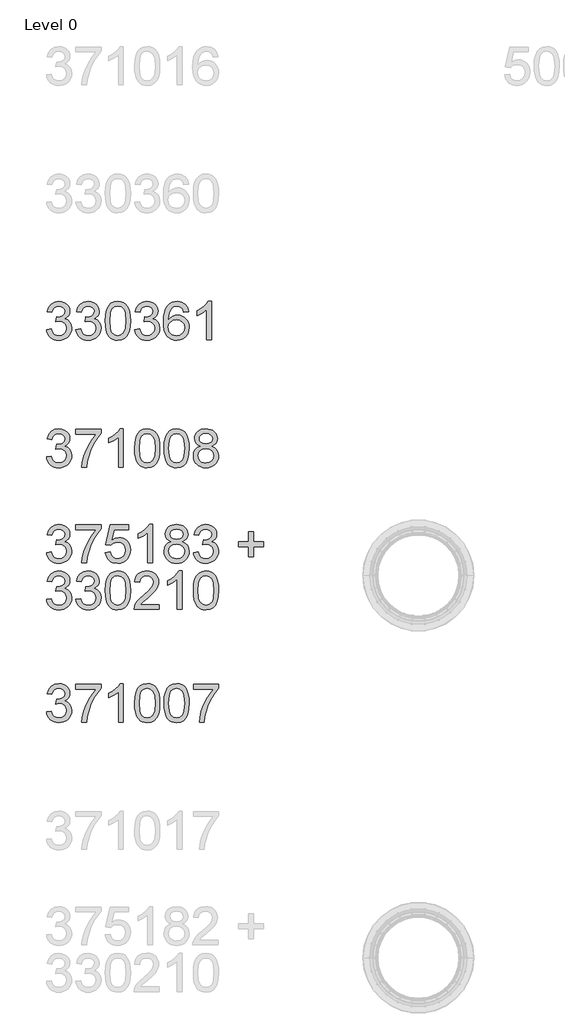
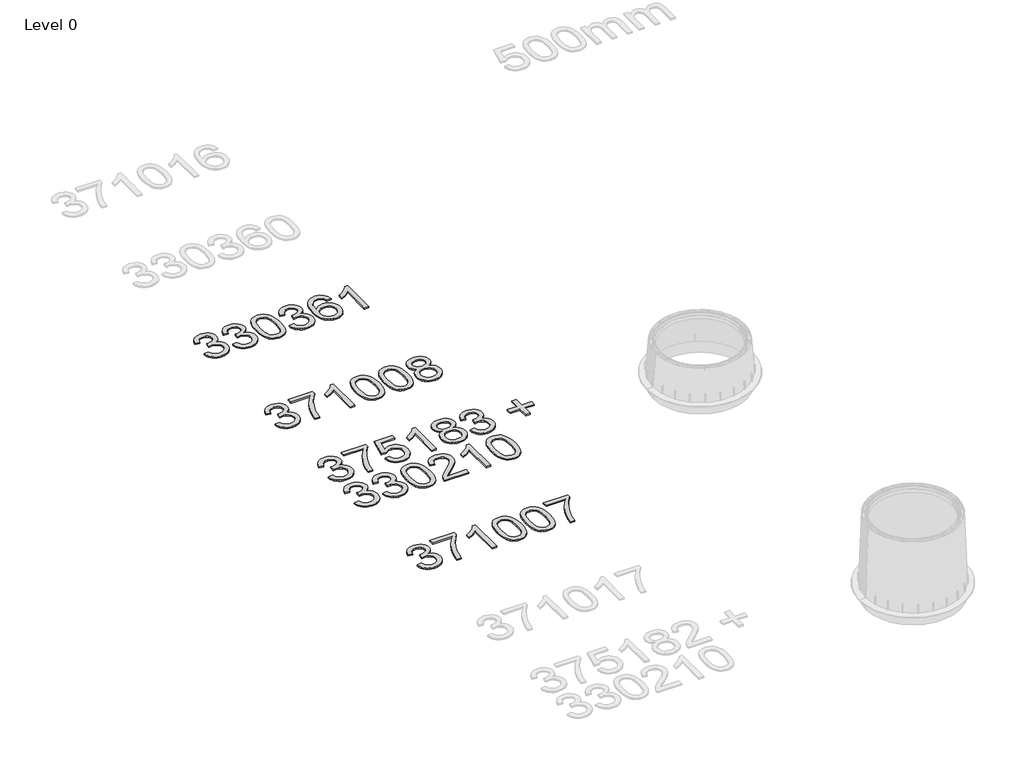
# One storey, part 13 of 25: 4 proxies.
"""IFC4 building model written with IfcOpenShell, lengths in millimetres."""

from ifc_helpers import new_model, si_unit, origin, origin_with_axes, place, context, project, spatial, polyline, outline, extrude, element, save

model = new_model("IFC4")

# Units and contexts
model_context = context("Model", 3, world=origin())
ifc_project = project(units=[si_unit("LENGTHUNIT", "METRE", prefix="MILLI")], contexts=[model_context])

# Site, building, storey
site = spatial("IfcSite", under=ifc_project)
building = spatial("IfcBuilding", under=site)
storey = spatial("IfcBuildingStorey", under=building, Name="Level 0", Elevation=0.0)

# Proxies
placement = place(None, origin())
element("IfcBuildingElementProxy", 1, Name="300mm Arial", ObjectType="300mm Arial", at=placement, inside=storey, context=model_context, shape_type="SweptSolid", body=[
    extrude(outline(polyline([(-3192.0538732, -120.925676), (-3154.3827568, -116.2167865), (-3145.9490621, -139.8899929), (-3133.5974241, -155.8744656), (-3116.7208376, -164.979545), (-3094.7122972, -168.0145714), (-3068.8869812, -163.8391108), (-3048.947777, -151.3127288), (-3036.2006659, -132.6243235), (-3031.9516289, -109.9627926), (-3036.1638777, -88.4508929), (-3048.8006242, -71.0040893), (-3067.930488, -59.4433976), (-3091.6220885, -55.5898337), (-3118.0360157, -59.710112), (-3113.842161, -22.0389957), (-3107.8088963, -22.4804541), (-3085.2393359, -19.7765215), (-3065.0610084, -11.6647235), (-3050.8239752, 2.057275), (-3046.0782975, 21.5918089), (-3049.5179941, 37.8613901), (-3059.8370841, 51.0591567), (-3075.5824335, 59.8055512), (-3095.3009084, 62.721016), (-3115.0561716, 59.77796), (-3131.2061912, 50.9487921), (-3142.9968091, 36.2335123), (-3149.6738673, 15.6321206), (-3187.3449836, 20.3410101), (-3176.2533415, 54.1677596), (-3156.5164724, 79.4228585), (-3129.513934, 95.1498138), (-3096.6252836, 100.3921323), (-3072.9428802, 97.8077613), (-3051.1918572, 90.0546482), (-3032.8529397, 77.8225719), (-3019.4068528, 61.801311), (-3011.1570991, 43.3428319), (-3008.4071812, 23.7991009), (-3011.0191433, 5.5889421), (-3018.8550298, -10.9289595), (-3031.8044761, -25.0004458), (-3049.7571174, -35.8713587), (-3026.1758815, -45.3995024), (-3008.7014868, -61.6230984), (-2997.8857561, -83.6592299), (-2994.2805125, -110.6249802), (-2996.0831343, -129.7364498), (-3001.4909997, -147.3396033), (-3010.5041085, -163.4344406), (-3023.122461, -178.0209617), (-3038.4953298, -190.1242793), (-3055.771988, -198.7695062), (-3074.9524356, -203.9566423), (-3096.0366724, -205.6856877), (-3115.0929598, -204.2095612), (-3132.4569899, -199.7811817), (-3148.1287629, -192.4005492), (-3162.1082787, -182.0676636), (-3173.8299188, -169.3895304), (-3182.7280646, -154.9731547), (-3188.802716, -138.8185366), (-3192.0538732, -120.925676)])), origin_with_axes(), (0.0, 0.0, 1.0), 10.0),
    extrude(outline(polyline([(-2961.3182858, -120.925676), (-2923.6471695, -116.2167865), (-2915.2134747, -139.8899929), (-2902.8618367, -155.8744656), (-2885.9852502, -164.979545), (-2863.9767099, -168.0145714), (-2838.1513938, -163.8391108), (-2818.2121897, -151.3127288), (-2805.4650785, -132.6243235), (-2801.2160415, -109.9627926), (-2805.4282903, -88.4508929), (-2818.0650369, -71.0040893), (-2837.1949006, -59.4433976), (-2860.8865011, -55.5898337), (-2887.3004284, -59.710112), (-2883.1065736, -22.0389957), (-2877.0733089, -22.4804541), (-2854.5037485, -19.7765215), (-2834.325421, -11.6647235), (-2820.0883878, 2.057275), (-2815.3427101, 21.5918089), (-2818.7824067, 37.8613901), (-2829.1014967, 51.0591567), (-2844.8468461, 59.8055512), (-2864.565321, 62.721016), (-2884.3205842, 59.77796), (-2900.4706038, 50.9487921), (-2912.2612217, 36.2335123), (-2918.9382799, 15.6321206), (-2956.6093962, 20.3410101), (-2945.5177541, 54.1677596), (-2925.780885, 79.4228585), (-2898.7783466, 95.1498138), (-2865.8896962, 100.3921323), (-2842.2072928, 97.8077613), (-2820.4562698, 90.0546482), (-2802.1173524, 77.8225719), (-2788.6712654, 61.801311), (-2780.4215117, 43.3428319), (-2777.6715938, 23.7991009), (-2780.283556, 5.5889421), (-2788.1194425, -10.9289595), (-2801.0688887, -25.0004458), (-2819.02153, -35.8713587), (-2795.4402942, -45.3995024), (-2777.9658994, -61.6230984), (-2767.1501687, -83.6592299), (-2763.5449252, -110.6249802), (-2765.3475469, -129.7364498), (-2770.7554123, -147.3396033), (-2779.7685212, -163.4344406), (-2792.3868736, -178.0209617), (-2807.7597425, -190.1242793), (-2825.0364007, -198.7695062), (-2844.2168482, -203.9566423), (-2865.301085, -205.6856877), (-2884.3573724, -204.2095612), (-2901.7214026, -199.7811817), (-2917.3931756, -192.4005492), (-2931.3726914, -182.0676636), (-2943.0943314, -169.3895304), (-2951.9924772, -154.9731547), (-2958.0671286, -138.8185366), (-2961.3182858, -120.925676)])), origin_with_axes(), (0.0, 0.0, 1.0), 10.0),
    extrude(outline(polyline([(-2730.5826984, -52.7203541), (-2727.8143864, -4.4818275), (-2719.5094504, 33.9894321), (-2705.7506637, 63.282036), (-2686.6208, 83.9845953), (-2661.9819034, 96.290248), (-2631.6960181, 100.3921323), (-2608.4826642, 97.9641111), (-2587.6973315, 90.6800476), (-2570.3149072, 78.8250503), (-2557.3102787, 62.6842278), (-2547.4878294, 42.3955357), (-2539.6519429, 18.0969299), (-2534.5199891, -12.7591724), (-2532.8093378, -52.7203541), (-2535.5500587, -100.6829692), (-2543.7722213, -139.0622584), (-2557.4482344, -168.3824534), (-2576.550507, -189.1677861), (-2601.244586, -201.5562123), (-2631.6960181, -205.6856877), (-2652.4445626, -203.892263), (-2670.8386624, -198.5119888), (-2686.8783174, -189.5448652), (-2700.5635276, -176.9908921), (-2713.6969148, -154.2971715), (-2723.0779057, -126.0208417), (-2728.7065002, -92.1619025), (-2730.5826984, -52.7203541)]), holes=[polyline([(-2692.9115821, -52.6467777), (-2688.4969982, -111.9033701), (-2682.9787682, -132.1713688), (-2675.2532463, -146.1991691), (-2655.5347714, -162.5607208), (-2631.6960181, -168.0145714), (-2607.8572648, -162.5423267), (-2588.1387899, -146.1255927), (-2580.413268, -132.0747997), (-2574.895038, -111.8113996), (-2570.4804541, -52.6467777), (-2574.7478852, 5.2762424), (-2580.0821742, 25.4775625), (-2587.5501787, 39.8387559), (-2607.2318654, 57.0004509), (-2632.1374765, 62.721016), (-2655.7187124, 57.6810326), (-2674.6646351, 42.5610826), (-2682.6476744, 26.9260978), (-2688.3498454, 5.8464595), (-2692.9115821, -52.6467777)])]), origin_with_axes(), (0.0, 0.0, 1.0), 10.0),
    extrude(outline(polyline([(-2499.847111, -120.925676), (-2462.1759947, -116.2167865), (-2453.7423, -139.8899929), (-2441.390662, -155.8744656), (-2424.5140755, -164.979545), (-2402.5055351, -168.0145714), (-2376.680219, -163.8391108), (-2356.7410149, -151.3127288), (-2343.9939038, -132.6243235), (-2339.7448667, -109.9627926), (-2343.9571156, -88.4508929), (-2356.5938621, -71.0040893), (-2375.7237259, -59.4433976), (-2399.4153263, -55.5898337), (-2425.8292536, -59.710112), (-2421.6353989, -22.0389957), (-2415.6021341, -22.4804541), (-2393.0325737, -19.7765215), (-2372.8542463, -11.6647235), (-2358.6172131, 2.057275), (-2353.8715353, 21.5918089), (-2357.311232, 37.8613901), (-2367.630322, 51.0591567), (-2383.3756714, 59.8055512), (-2403.0941463, 62.721016), (-2422.8494094, 59.77796), (-2438.999429, 50.9487921), (-2450.790047, 36.2335123), (-2457.4671052, 15.6321206), (-2495.1382215, 20.3410101), (-2484.0465793, 54.1677596), (-2464.3097103, 79.4228585), (-2437.3071719, 95.1498138), (-2404.4185215, 100.3921323), (-2380.736118, 97.8077613), (-2358.9850951, 90.0546482), (-2340.6461776, 77.8225719), (-2327.2000907, 61.801311), (-2318.950337, 43.3428319), (-2316.200419, 23.7991009), (-2318.8123812, 5.5889421), (-2326.6482677, -10.9289595), (-2339.5977139, -25.0004458), (-2357.5503553, -35.8713587), (-2333.9691194, -45.3995024), (-2316.4947246, -61.6230984), (-2305.678994, -83.6592299), (-2302.0737504, -110.6249802), (-2303.8763722, -129.7364498), (-2309.2842375, -147.3396033), (-2318.2973464, -163.4344406), (-2330.9156988, -178.0209617), (-2346.2885677, -190.1242793), (-2363.5652259, -198.7695062), (-2382.7456734, -203.9566423), (-2403.8299103, -205.6856877), (-2422.8861976, -204.2095612), (-2440.2502278, -199.7811817), (-2455.9220008, -192.4005492), (-2469.9015166, -182.0676636), (-2481.6231567, -169.3895304), (-2490.5213025, -154.9731547), (-2496.5959539, -138.8185366), (-2499.847111, -120.925676)])), origin_with_axes(), (0.0, 0.0, 1.0), 10.0),
    extrude(outline(polyline([(-2076.0470526, 20.3410101), (-2113.7181689, 15.6321206), (-2119.7882218, 34.3021318), (-2127.9919903, 47.049243), (-2145.080109, 58.8030727), (-2165.736683, 62.721016), (-2183.247866, 60.4401476), (-2199.7289794, 53.5975425), (-2213.8832391, 39.1857653), (-2225.4439308, 19.3477287), (-2233.2522262, -8.7124704), (-2236.1492969, -47.7907354), (-2221.0385439, -30.1599908), (-2202.9295527, -17.7347764), (-2182.8339987, -10.3679394), (-2161.7635575, -7.9123271), (-2143.6637633, -9.5907887), (-2126.9619207, -14.6261735), (-2111.6580297, -23.0184815), (-2097.7520903, -34.7677128), (-2086.1959971, -49.1748914), (-2077.9416449, -65.5410417), (-2072.9890335, -83.8661635), (-2071.338163, -104.150257), (-2074.4467659, -131.1252043), (-2083.7725745, -156.131983), (-2098.5430366, -177.34038), (-2117.9856, -192.9201825), (-2141.217348, -202.4943114), (-2167.3553638, -205.6856877), (-2189.8122603, -203.5703662), (-2210.0940546, -197.2244018), (-2228.2007465, -186.6477945), (-2244.1323362, -171.8405442), (-2257.1208699, -152.1772515), (-2266.3983939, -127.0325171), (-2271.9649084, -96.406341), (-2273.8204132, -60.2987232), (-2271.760274, -19.8179082), (-2265.5798565, 14.7308097), (-2255.2791606, 43.3474304), (-2240.8581864, 66.0319539), (-2225.2278002, 81.0645319), (-2207.1050134, 91.8020877), (-2186.4898261, 98.2446211), (-2163.3822382, 100.3921323), (-2130.328041, 95.0762374), (-2103.8589314, 79.1285529), (-2085.3176789, 53.7998776), (-2076.0470526, 20.3410101)]), holes=[polyline([(-2236.1492969, -103.5616459), (-2233.9695961, -120.2542914), (-2227.4304936, -136.1927788), (-2217.2769505, -149.8963831), (-2204.2539279, -159.8843793), (-2188.5361697, -165.9820234), (-2170.2984198, -168.0145714), (-2145.4387939, -163.8023226), (-2125.8950629, -151.165576), (-2113.2307252, -131.2999483), (-2109.0092794, -105.4010558), (-2113.175543, -80.54143), (-2125.6743337, -61.5863102), (-2145.5491585, -49.5841601), (-2171.8435241, -45.5834434), (-2196.6663618, -49.5841601), (-2217.4241033, -61.5863102), (-2231.4679985, -80.0815775), (-2236.1492969, -103.5616459)])]), origin_with_axes(), (0.0, 0.0, 1.0), 10.0),
    extrude(outline(polyline([(-1897.1092501, -200.9767982), (-1934.7803664, -200.9767982), (-1934.7803664, 33.8790675), (-1970.46492, 8.4584217), (-2010.1225991, -10.5610775), (-2010.1225991, 25.0498997), (-1980.5356896, 41.1447369), (-1954.9035116, 60.2929948), (-1934.697593, 80.6552632), (-1921.3894618, 100.3921323), (-1897.1092501, 100.3921323), (-1897.1092501, -200.9767982)])), origin_with_axes(), (0.0, 0.0, 1.0), 10.0),
])
element("IfcBuildingElementProxy", 2, Name="300mm Arial", ObjectType="300mm Arial", at=placement, inside=storey, context=model_context, shape_type="SweptSolid", body=[
    extrude(outline(polyline([(-3192.0538732, -1120.925676), (-3154.3827568, -1116.2167865), (-3145.9490621, -1139.8899929), (-3133.5974241, -1155.8744656), (-3116.7208376, -1164.979545), (-3094.7122972, -1168.0145714), (-3068.8869812, -1163.8391108), (-3048.947777, -1151.3127288), (-3036.2006659, -1132.6243235), (-3031.9516289, -1109.9627926), (-3036.1638777, -1088.4508929), (-3048.8006242, -1071.0040893), (-3067.930488, -1059.4433976), (-3091.6220885, -1055.5898337), (-3118.0360157, -1059.710112), (-3113.842161, -1022.0389957), (-3107.8088963, -1022.4804541), (-3085.2393359, -1019.7765215), (-3065.0610084, -1011.6647235), (-3050.8239752, -997.942725), (-3046.0782975, -978.4081911), (-3049.5179941, -962.1386099), (-3059.8370841, -948.9408433), (-3075.5824335, -940.1944488), (-3095.3009084, -937.278984), (-3115.0561716, -940.22204), (-3131.2061912, -949.0512079), (-3142.9968091, -963.7664877), (-3149.6738673, -984.3678794), (-3187.3449836, -979.6589899), (-3176.2533415, -945.8322404), (-3156.5164724, -920.5771415), (-3129.513934, -904.8501862), (-3096.6252836, -899.6078677), (-3072.9428802, -902.1922387), (-3051.1918572, -909.9453518), (-3032.8529397, -922.1774281), (-3019.4068528, -938.198689), (-3011.1570991, -956.6571681), (-3008.4071812, -976.2008991), (-3011.0191433, -994.4110579), (-3018.8550298, -1010.9289595), (-3031.8044761, -1025.0004458), (-3049.7571174, -1035.8713587), (-3026.1758815, -1045.3995024), (-3008.7014868, -1061.6230984), (-2997.8857561, -1083.6592299), (-2994.2805125, -1110.6249802), (-2996.0831343, -1129.7364498), (-3001.4909997, -1147.3396033), (-3010.5041085, -1163.4344406), (-3023.122461, -1178.0209617), (-3038.4953298, -1190.1242793), (-3055.771988, -1198.7695062), (-3074.9524356, -1203.9566423), (-3096.0366724, -1205.6856877), (-3115.0929598, -1204.2095612), (-3132.4569899, -1199.7811817), (-3148.1287629, -1192.4005492), (-3162.1082787, -1182.0676636), (-3173.8299188, -1169.3895304), (-3182.7280646, -1154.9731547), (-3188.802716, -1138.8185366), (-3192.0538732, -1120.925676)])), origin_with_axes(), (0.0, 0.0, 1.0), 10.0),
    extrude(outline(polyline([(-2961.3182858, -941.9878736), (-2961.3182858, -904.3167573), (-2763.5449252, -904.3167573), (-2763.5449252, -934.7773865), (-2791.7338831, -970.452743), (-2819.6469294, -1015.82179), (-2844.267432, -1066.7458552), (-2862.5787583, -1119.0862661), (-2871.555079, -1158.2473044), (-2876.5582741, -1200.9767982), (-2914.2293904, -1200.9767982), (-2910.1550973, -1162.1468536), (-2899.2565932, -1115.9960573), (-2881.8281837, -1067.076949), (-2858.1641743, -1019.9420684), (-2830.5362365, -977.3321363), (-2801.2160415, -941.9878736), (-2961.3182858, -941.9878736)])), origin_with_axes(), (0.0, 0.0, 1.0), 10.0),
    extrude(outline(polyline([(-2589.3160123, -1200.9767982), (-2626.9871286, -1200.9767982), (-2626.9871286, -966.1209325), (-2662.6716821, -991.5415783), (-2702.3293612, -1010.5610775), (-2702.3293612, -974.9501003), (-2672.7424517, -958.8552631), (-2647.1102737, -939.7070052), (-2626.9043551, -919.3447368), (-2613.5962239, -899.6078677), (-2589.3160123, -899.6078677), (-2589.3160123, -1200.9767982)])), origin_with_axes(), (0.0, 0.0, 1.0), 10.0),
    extrude(outline(polyline([(-2499.847111, -1052.7203541), (-2497.078799, -1004.4818275), (-2488.773863, -966.0105679), (-2475.0150764, -936.717964), (-2455.8852126, -916.0154047), (-2431.246316, -903.709752), (-2400.9604307, -899.6078677), (-2377.7470768, -902.0358889), (-2356.9617441, -909.3199524), (-2339.5793198, -921.1749497), (-2326.5746913, -937.3157722), (-2316.752242, -957.6044643), (-2308.9163555, -981.9030701), (-2303.7844017, -1012.7591724), (-2302.0737504, -1052.7203541), (-2304.8144713, -1100.6829692), (-2313.0366339, -1139.0622584), (-2326.7126471, -1168.3824534), (-2345.8149197, -1189.1677861), (-2370.5089986, -1201.5562123), (-2400.9604307, -1205.6856877), (-2421.7089753, -1203.892263), (-2440.103075, -1198.5119888), (-2456.14273, -1189.5448652), (-2469.8279402, -1176.9908921), (-2482.9613275, -1154.2971715), (-2492.3423183, -1126.0208417), (-2497.9709129, -1092.1619025), (-2499.847111, -1052.7203541)]), holes=[polyline([(-2462.1759947, -1052.6467777), (-2457.7614108, -1111.9033701), (-2452.2431809, -1132.1713688), (-2444.517659, -1146.1991691), (-2424.799184, -1162.5607208), (-2400.9604307, -1168.0145714), (-2377.1216774, -1162.5423267), (-2357.4032025, -1146.1255927), (-2349.6776806, -1132.0747997), (-2344.1594507, -1111.8113996), (-2339.7448667, -1052.6467777), (-2344.0122979, -994.7237576), (-2349.3465868, -974.5224375), (-2356.8145913, -960.1612441), (-2376.496278, -942.9995491), (-2401.4018891, -937.278984), (-2424.983125, -942.3189674), (-2443.9290478, -957.4389174), (-2451.9120871, -973.0739022), (-2457.614258, -994.1535405), (-2462.1759947, -1052.6467777)])]), origin_with_axes(), (0.0, 0.0, 1.0), 10.0),
    extrude(outline(polyline([(-2269.1115237, -1052.7203541), (-2266.3432116, -1004.4818275), (-2258.0382756, -966.0105679), (-2244.279489, -936.717964), (-2225.1496252, -916.0154047), (-2200.5107286, -903.709752), (-2170.2248434, -899.6078677), (-2147.0114895, -902.0358889), (-2126.2261567, -909.3199524), (-2108.8437325, -921.1749497), (-2095.8391039, -937.3157722), (-2086.0166547, -957.6044643), (-2078.1807682, -981.9030701), (-2073.0488143, -1012.7591724), (-2071.338163, -1052.7203541), (-2074.0788839, -1100.6829692), (-2082.3010465, -1139.0622584), (-2095.9770597, -1168.3824534), (-2115.0793323, -1189.1677861), (-2139.7734112, -1201.5562123), (-2170.2248434, -1205.6856877), (-2190.9733879, -1203.892263), (-2209.3674876, -1198.5119888), (-2225.4071426, -1189.5448652), (-2239.0923528, -1176.9908921), (-2252.2257401, -1154.2971715), (-2261.606731, -1126.0208417), (-2267.2353255, -1092.1619025), (-2269.1115237, -1052.7203541)]), holes=[polyline([(-2231.4404073, -1052.6467777), (-2227.0258234, -1111.9033701), (-2221.5075935, -1132.1713688), (-2213.7820716, -1146.1991691), (-2194.0635966, -1162.5607208), (-2170.2248434, -1168.0145714), (-2146.3860901, -1162.5423267), (-2126.6676151, -1146.1255927), (-2118.9420932, -1132.0747997), (-2113.4238633, -1111.8113996), (-2109.0092794, -1052.6467777), (-2113.2767105, -994.7237576), (-2118.6109994, -974.5224375), (-2126.0790039, -960.1612441), (-2145.7606907, -942.9995491), (-2170.6663017, -937.278984), (-2194.2475376, -942.3189674), (-2213.1934604, -957.4389174), (-2221.1764997, -973.0739022), (-2226.8786706, -994.1535405), (-2231.4404073, -1052.6467777)])]), origin_with_axes(), (0.0, 0.0, 1.0), 10.0),
    extrude(outline(polyline([(-1983.4879426, -1034.988442), (-2003.657073, -1025.0556281), (-2017.8113328, -1011.5911471), (-2026.1714511, -994.8709104), (-2028.9581572, -975.1708295), (-2027.440644, -959.8071577), (-2022.8881043, -945.7218758), (-2015.3005381, -932.9149839), (-2004.6779455, -921.3864818), (-1991.5307627, -911.8583382), (-1976.369426, -905.0525213), (-1940.0042908, -899.6078677), (-1903.4184264, -905.18128), (-1888.0915427, -912.1480452), (-1874.7420248, -921.9015166), (-1863.9262942, -933.6553464), (-1856.2007723, -946.6231867), (-1851.5654591, -960.8050376), (-1850.0203548, -976.2008991), (-1852.7702727, -995.2663835), (-1861.0200264, -1011.7015117), (-1874.8615865, -1025.0832192), (-1894.3869234, -1034.988442), (-1871.2011606, -1046.9354097), (-1854.3245741, -1064.5293662), (-1844.0330753, -1086.9241826), (-1840.6025757, -1113.2737305), (-1842.3040299, -1132.0633034), (-1847.4083926, -1149.2893779), (-1855.9156637, -1164.9519538), (-1867.8258433, -1179.0510313), (-1882.513532, -1190.7036935), (-1899.3533303, -1199.0270236), (-1918.3452383, -1204.0210217), (-1939.489256, -1205.6856877), (-1960.6332737, -1204.0141239), (-1979.6251817, -1198.9994325), (-1996.46498, -1190.6416134), (-2011.1526686, -1178.9406667), (-2023.0628482, -1164.7427209), (-2031.5701194, -1148.8939047), (-2036.6744821, -1131.3942181), (-2038.3759363, -1112.2436609), (-2034.8074809, -1084.8732405), (-2024.1021149, -1062.3588624), (-2006.8116611, -1045.4730788), (-1983.4879426, -1034.988442)]), holes=[polyline([(-1991.2870409, -976.2744755), (-1987.9485118, -992.7188007), (-1977.9329245, -1005.8521879), (-1961.5345845, -1014.4606266), (-1939.0477976, -1017.3301062), (-1917.0852425, -1014.4790207), (-1900.9352229, -1005.9257643), (-1891.002409, -993.2338355), (-1887.6914711, -977.9667327), (-1891.1127736, -962.1202158), (-1901.3766813, -949.0144197), (-1917.7474301, -940.2128429), (-1939.489256, -937.278984), (-1961.3690376, -940.1484636), (-1977.7121953, -948.7569023), (-1987.8933295, -961.3752547), (-1991.2870409, -976.2744755)]), polyline([(-2000.70482, -1110.9192858), (-1994.4140379, -1139.2829876), (-1985.7044316, -1151.4506846), (-1972.1571771, -1160.5097787), (-1955.9335812, -1166.1383732), (-1939.1949504, -1168.0145714), (-1913.5535753, -1164.069037), (-1894.313347, -1152.2324338), (-1882.2836057, -1134.3073836), (-1878.273692, -1112.0965081), (-1882.4123644, -1089.5085536), (-1894.8283818, -1071.1880303), (-1914.5100685, -1059.0479244), (-1940.4457492, -1055.0012225), (-1965.7284393, -1058.9927421), (-1984.7755296, -1070.9673011), (-1996.7224974, -1088.9383365), (-2000.70482, -1110.9192858)])]), origin_with_axes(), (0.0, 0.0, 1.0), 10.0),
])
element("IfcBuildingElementProxy", 3, Name="300mm Arial", ObjectType="300mm Arial", at=placement, inside=storey, context=model_context, shape_type="SweptSolid", body=[
    extrude(outline(polyline([(-3192.0538732, -1870.925676), (-3154.3827568, -1866.2167865), (-3145.9490621, -1889.8899929), (-3133.5974241, -1905.8744656), (-3116.7208376, -1914.979545), (-3094.7122972, -1918.0145714), (-3068.8869812, -1913.8391108), (-3048.947777, -1901.3127288), (-3036.2006659, -1882.6243235), (-3031.9516289, -1859.9627926), (-3036.1638777, -1838.4508929), (-3048.8006242, -1821.0040893), (-3067.930488, -1809.4433976), (-3091.6220885, -1805.5898337), (-3118.0360157, -1809.710112), (-3113.842161, -1772.0389957), (-3107.8088963, -1772.4804541), (-3085.2393359, -1769.7765215), (-3065.0610084, -1761.6647235), (-3050.8239752, -1747.942725), (-3046.0782975, -1728.4081911), (-3049.5179941, -1712.1386099), (-3059.8370841, -1698.9408433), (-3075.5824335, -1690.1944488), (-3095.3009084, -1687.278984), (-3115.0561716, -1690.22204), (-3131.2061912, -1699.0512079), (-3142.9968091, -1713.7664877), (-3149.6738673, -1734.3678794), (-3187.3449836, -1729.6589899), (-3176.2533415, -1695.8322404), (-3156.5164724, -1670.5771415), (-3129.513934, -1654.8501862), (-3096.6252836, -1649.6078677), (-3072.9428802, -1652.1922387), (-3051.1918572, -1659.9453518), (-3032.8529397, -1672.1774281), (-3019.4068528, -1688.198689), (-3011.1570991, -1706.6571681), (-3008.4071812, -1726.2008991), (-3011.0191433, -1744.4110579), (-3018.8550298, -1760.9289595), (-3031.8044761, -1775.0004458), (-3049.7571174, -1785.8713587), (-3026.1758815, -1795.3995024), (-3008.7014868, -1811.6230984), (-2997.8857561, -1833.6592299), (-2994.2805125, -1860.6249802), (-2996.0831343, -1879.7364498), (-3001.4909997, -1897.3396033), (-3010.5041085, -1913.4344406), (-3023.122461, -1928.0209617), (-3038.4953298, -1940.1242793), (-3055.771988, -1948.7695062), (-3074.9524356, -1953.9566423), (-3096.0366724, -1955.6856877), (-3115.0929598, -1954.2095612), (-3132.4569899, -1949.7811817), (-3148.1287629, -1942.4005492), (-3162.1082787, -1932.0676636), (-3173.8299188, -1919.3895304), (-3182.7280646, -1904.9731547), (-3188.802716, -1888.8185366), (-3192.0538732, -1870.925676)])), origin_with_axes(), (0.0, 0.0, 1.0), 10.0),
    extrude(outline(polyline([(-2961.3182858, -1691.9878736), (-2961.3182858, -1654.3167573), (-2763.5449252, -1654.3167573), (-2763.5449252, -1684.7773865), (-2791.7338831, -1720.452743), (-2819.6469294, -1765.82179), (-2844.267432, -1816.7458552), (-2862.5787583, -1869.0862661), (-2871.555079, -1908.2473044), (-2876.5582741, -1950.9767982), (-2914.2293904, -1950.9767982), (-2910.1550973, -1912.1468536), (-2899.2565932, -1865.9960573), (-2881.8281837, -1817.076949), (-2858.1641743, -1769.9420684), (-2830.5362365, -1727.3321363), (-2801.2160415, -1691.9878736), (-2961.3182858, -1691.9878736)])), origin_with_axes(), (0.0, 0.0, 1.0), 10.0),
    extrude(outline(polyline([(-2730.5826984, -1870.925676), (-2692.9115821, -1866.2167865), (-2685.9954006, -1888.8323321), (-2673.9288711, -1905.028337), (-2656.7671761, -1914.7680128), (-2634.5654977, -1918.0145714), (-2607.5629592, -1913.4988199), (-2587.3294495, -1899.9515654), (-2574.6927029, -1878.9363065), (-2570.4804541, -1852.0165415), (-2574.4259885, -1826.669472), (-2586.2625917, -1807.2820909), (-2606.0822342, -1794.9764381), (-2633.9768865, -1790.8745539), (-2652.2514246, -1792.5116288), (-2667.0494778, -1797.4228534), (-2688.2026926, -1814.4190016), (-2725.8738089, -1809.710112), (-2692.9115821, -1654.3167573), (-2546.9360064, -1654.3167573), (-2546.9360064, -1691.9878736), (-2662.4509529, -1691.9878736), (-2678.5641843, -1774.9820517), (-2651.6536163, -1758.6480911), (-2623.4554614, -1753.2034376), (-2605.1096462, -1754.8910962), (-2588.2583515, -1759.9540722), (-2572.9015775, -1768.3923654), (-2559.0393241, -1780.205976), (-2547.5637051, -1794.6729355), (-2539.3668344, -1811.0712754), (-2534.4487119, -1829.4009958), (-2532.8093378, -1849.6620967), (-2538.7138438, -1887.333213), (-2546.0944763, -1904.1270261), (-2556.4273619, -1919.5596758), (-2572.0807408, -1935.364806), (-2590.3460818, -1946.6541847), (-2611.2233851, -1953.427812), (-2634.7126505, -1955.6856877), (-2671.7123821, -1949.8823492), (-2687.3910529, -1942.6281762), (-2701.188927, -1932.4723338), (-2712.6691445, -1919.92066), (-2721.3948456, -1905.4789924), (-2730.5826984, -1870.925676)])), origin_with_axes(), (0.0, 0.0, 1.0), 10.0),
    extrude(outline(polyline([(-2358.5804249, -1950.9767982), (-2396.2515412, -1950.9767982), (-2396.2515412, -1716.1209325), (-2431.9360947, -1741.5415783), (-2471.5937738, -1760.5610775), (-2471.5937738, -1724.9501003), (-2442.0068643, -1708.8552631), (-2416.3746863, -1689.7070052), (-2396.1687677, -1669.3447368), (-2382.8606366, -1649.6078677), (-2358.5804249, -1649.6078677), (-2358.5804249, -1950.9767982)])), origin_with_axes(), (0.0, 0.0, 1.0), 10.0),
    extrude(outline(polyline([(-2214.22353, -1784.988442), (-2234.3926604, -1775.0556281), (-2248.5469201, -1761.5911471), (-2256.9070385, -1744.8709104), (-2259.6937446, -1725.1708295), (-2258.1762313, -1709.8071577), (-2253.6236917, -1695.7218758), (-2246.0361255, -1682.9149839), (-2235.4135329, -1671.3864818), (-2222.2663501, -1661.8583382), (-2207.1050134, -1655.0525213), (-2170.7398781, -1649.6078677), (-2134.1540137, -1655.18128), (-2118.8271301, -1662.1480452), (-2105.4776122, -1671.9015166), (-2094.6618815, -1683.6553464), (-2086.9363596, -1696.6231867), (-2082.3010465, -1710.8050376), (-2080.7559421, -1726.2008991), (-2083.50586, -1745.2663835), (-2091.7556138, -1761.7015117), (-2105.5971738, -1775.0832192), (-2125.1225107, -1784.988442), (-2101.936748, -1796.9354097), (-2085.0601615, -1814.5293662), (-2074.7686627, -1836.9241826), (-2071.338163, -1863.2737305), (-2073.0396173, -1882.0633034), (-2078.14398, -1899.2893779), (-2086.6512511, -1914.9519538), (-2098.5614307, -1929.0510313), (-2113.2491193, -1940.7036935), (-2130.0889177, -1949.0270236), (-2149.0808257, -1954.0210217), (-2170.2248434, -1955.6856877), (-2191.368861, -1954.0141239), (-2210.360769, -1948.9994325), (-2227.2005674, -1940.6416134), (-2241.888256, -1928.9406667), (-2253.7984356, -1914.7427209), (-2262.3057067, -1898.8939047), (-2267.4100694, -1881.3942181), (-2269.1115237, -1862.2436609), (-2265.5430683, -1834.8732405), (-2254.8377022, -1812.3588624), (-2237.5472485, -1795.4730788), (-2214.22353, -1784.988442)]), holes=[polyline([(-2222.0226283, -1726.2744755), (-2218.6840992, -1742.7188007), (-2208.6685118, -1755.8521879), (-2192.2701719, -1764.4606266), (-2169.783385, -1767.3301062), (-2147.8208298, -1764.4790207), (-2131.6708103, -1755.9257643), (-2121.7379964, -1743.2338355), (-2118.4270584, -1727.9667327), (-2121.848361, -1712.1202158), (-2132.1122687, -1699.0144197), (-2148.4830174, -1690.2128429), (-2170.2248434, -1687.278984), (-2192.104625, -1690.1484636), (-2208.4477827, -1698.7569023), (-2218.6289169, -1711.3752547), (-2222.0226283, -1726.2744755)]), polyline([(-2231.4404073, -1860.9192858), (-2225.1496252, -1889.2829876), (-2216.440019, -1901.4506846), (-2202.8927645, -1910.5097787), (-2186.6691685, -1916.1383732), (-2169.9305378, -1918.0145714), (-2144.2891627, -1914.069037), (-2125.0489343, -1902.2324338), (-2113.0191931, -1884.3073836), (-2109.0092794, -1862.0965081), (-2113.1479518, -1839.5085536), (-2125.5639691, -1821.1880303), (-2145.2456559, -1809.0479244), (-2171.1813365, -1805.0012225), (-2196.4640267, -1808.9927421), (-2215.511117, -1820.9673011), (-2227.4580848, -1838.9383365), (-2231.4404073, -1860.9192858)])]), origin_with_axes(), (0.0, 0.0, 1.0), 10.0),
    extrude(outline(polyline([(-2038.3759363, -1870.925676), (-2000.70482, -1866.2167865), (-1992.2711252, -1889.8899929), (-1979.9194872, -1905.8744656), (-1963.0429007, -1914.979545), (-1941.0343604, -1918.0145714), (-1915.2090443, -1913.8391108), (-1895.2698402, -1901.3127288), (-1882.522729, -1882.6243235), (-1878.273692, -1859.9627926), (-1882.4859408, -1838.4508929), (-1895.1226874, -1821.0040893), (-1914.2525511, -1809.4433976), (-1937.9441516, -1805.5898337), (-1964.3580789, -1809.710112), (-1960.1642241, -1772.0389957), (-1954.1309594, -1772.4804541), (-1931.561399, -1769.7765215), (-1911.3830715, -1761.6647235), (-1897.1460383, -1747.942725), (-1892.4003606, -1728.4081911), (-1895.8400572, -1712.1386099), (-1906.1591472, -1698.9408433), (-1921.9044966, -1690.1944488), (-1941.6229715, -1687.278984), (-1961.3782347, -1690.22204), (-1977.5282543, -1699.0512079), (-1989.3188722, -1713.7664877), (-1995.9959304, -1734.3678794), (-2033.6670467, -1729.6589899), (-2022.5754046, -1695.8322404), (-2002.8385355, -1670.5771415), (-1975.8359971, -1654.8501862), (-1942.9473467, -1649.6078677), (-1919.2649433, -1652.1922387), (-1897.5139203, -1659.9453518), (-1879.1750029, -1672.1774281), (-1865.7289159, -1688.198689), (-1857.4791622, -1706.6571681), (-1854.7292443, -1726.2008991), (-1857.3412065, -1744.4110579), (-1865.177093, -1760.9289595), (-1878.1265392, -1775.0004458), (-1896.0791805, -1785.8713587), (-1872.4979447, -1795.3995024), (-1855.0235499, -1811.6230984), (-1844.2078192, -1833.6592299), (-1840.6025757, -1860.6249802), (-1842.4051975, -1879.7364498), (-1847.8130628, -1897.3396033), (-1856.8261717, -1913.4344406), (-1869.4445241, -1928.0209617), (-1884.817393, -1940.1242793), (-1902.0940512, -1948.7695062), (-1921.2744987, -1953.9566423), (-1942.3587355, -1955.6856877), (-1961.4150229, -1954.2095612), (-1978.7790531, -1949.7811817), (-1994.4508261, -1942.4005492), (-2008.4303419, -1932.0676636), (-2020.1519819, -1919.3895304), (-2029.0501277, -1904.9731547), (-2035.1247791, -1888.8185366), (-2038.3759363, -1870.925676)])), origin_with_axes(), (0.0, 0.0, 1.0), 10.0),
    extrude(outline(polyline([(-1605.1580988, -1903.8879028), (-1605.1580988, -1823.8367806), (-1685.2092209, -1823.8367806), (-1685.2092209, -1786.1656643), (-1605.1580988, -1786.1656643), (-1605.1580988, -1706.1145422), (-1567.4869825, -1706.1145422), (-1567.4869825, -1786.1656643), (-1487.4358603, -1786.1656643), (-1487.4358603, -1823.8367806), (-1567.4869825, -1823.8367806), (-1567.4869825, -1903.8879028), (-1605.1580988, -1903.8879028)])), origin_with_axes(), (0.0, 0.0, 1.0), 10.0),
    extrude(outline(polyline([(-3192.0538732, -2236.8501296), (-3154.3827568, -2232.14124), (-3145.9490621, -2255.8144464), (-3133.5974241, -2271.7989191), (-3116.7208376, -2280.9039985), (-3094.7122972, -2283.9390249), (-3068.8869812, -2279.7635643), (-3048.947777, -2267.2371824), (-3036.2006659, -2248.548777), (-3031.9516289, -2225.8872461), (-3036.1638777, -2204.3753464), (-3048.8006242, -2186.9285428), (-3067.930488, -2175.3678511), (-3091.6220885, -2171.5142872), (-3118.0360157, -2175.6345656), (-3113.842161, -2137.9634493), (-3107.8088963, -2138.4049077), (-3085.2393359, -2135.700975), (-3065.0610084, -2127.589177), (-3050.8239752, -2113.8671786), (-3046.0782975, -2094.3326446), (-3049.5179941, -2078.0630634), (-3059.8370841, -2064.8652968), (-3075.5824335, -2056.1189024), (-3095.3009084, -2053.2034376), (-3115.0561716, -2056.1464935), (-3131.2061912, -2064.9756614), (-3142.9968091, -2079.6909412), (-3149.6738673, -2100.292333), (-3187.3449836, -2095.5834434), (-3176.2533415, -2061.756694), (-3156.5164724, -2036.501595), (-3129.513934, -2020.7746397), (-3096.6252836, -2015.5323213), (-3072.9428802, -2018.1166923), (-3051.1918572, -2025.8698053), (-3032.8529397, -2038.1018817), (-3019.4068528, -2054.1231426), (-3011.1570991, -2072.5816217), (-3008.4071812, -2092.1253527), (-3011.0191433, -2110.3355114), (-3018.8550298, -2126.853413), (-3031.8044761, -2140.9248993), (-3049.7571174, -2151.7958123), (-3026.1758815, -2161.323956), (-3008.7014868, -2177.5475519), (-2997.8857561, -2199.5836835), (-2994.2805125, -2226.5494337), (-2996.0831343, -2245.6609033), (-3001.4909997, -2263.2640568), (-3010.5041085, -2279.3588941), (-3023.122461, -2293.9454152), (-3038.4953298, -2306.0487329), (-3055.771988, -2314.6939597), (-3074.9524356, -2319.8810959), (-3096.0366724, -2321.6101413), (-3115.0929598, -2320.1340147), (-3132.4569899, -2315.7056352), (-3148.1287629, -2308.3250027), (-3162.1082787, -2297.9921172), (-3173.8299188, -2285.3139839), (-3182.7280646, -2270.8976082), (-3188.802716, -2254.7429901), (-3192.0538732, -2236.8501296)])), origin_with_axes(), (0.0, 0.0, 1.0), 10.0),
    extrude(outline(polyline([(-2961.3182858, -2236.8501296), (-2923.6471695, -2232.14124), (-2915.2134747, -2255.8144464), (-2902.8618367, -2271.7989191), (-2885.9852502, -2280.9039985), (-2863.9767099, -2283.9390249), (-2838.1513938, -2279.7635643), (-2818.2121897, -2267.2371824), (-2805.4650785, -2248.548777), (-2801.2160415, -2225.8872461), (-2805.4282903, -2204.3753464), (-2818.0650369, -2186.9285428), (-2837.1949006, -2175.3678511), (-2860.8865011, -2171.5142872), (-2887.3004284, -2175.6345656), (-2883.1065736, -2137.9634493), (-2877.0733089, -2138.4049077), (-2854.5037485, -2135.700975), (-2834.325421, -2127.589177), (-2820.0883878, -2113.8671786), (-2815.3427101, -2094.3326446), (-2818.7824067, -2078.0630634), (-2829.1014967, -2064.8652968), (-2844.8468461, -2056.1189024), (-2864.565321, -2053.2034376), (-2884.3205842, -2056.1464935), (-2900.4706038, -2064.9756614), (-2912.2612217, -2079.6909412), (-2918.9382799, -2100.292333), (-2956.6093962, -2095.5834434), (-2945.5177541, -2061.756694), (-2925.780885, -2036.501595), (-2898.7783466, -2020.7746397), (-2865.8896962, -2015.5323213), (-2842.2072928, -2018.1166923), (-2820.4562698, -2025.8698053), (-2802.1173524, -2038.1018817), (-2788.6712654, -2054.1231426), (-2780.4215117, -2072.5816217), (-2777.6715938, -2092.1253527), (-2780.283556, -2110.3355114), (-2788.1194425, -2126.853413), (-2801.0688887, -2140.9248993), (-2819.02153, -2151.7958123), (-2795.4402942, -2161.323956), (-2777.9658994, -2177.5475519), (-2767.1501687, -2199.5836835), (-2763.5449252, -2226.5494337), (-2765.3475469, -2245.6609033), (-2770.7554123, -2263.2640568), (-2779.7685212, -2279.3588941), (-2792.3868736, -2293.9454152), (-2807.7597425, -2306.0487329), (-2825.0364007, -2314.6939597), (-2844.2168482, -2319.8810959), (-2865.301085, -2321.6101413), (-2884.3573724, -2320.1340147), (-2901.7214026, -2315.7056352), (-2917.3931756, -2308.3250027), (-2931.3726914, -2297.9921172), (-2943.0943314, -2285.3139839), (-2951.9924772, -2270.8976082), (-2958.0671286, -2254.7429901), (-2961.3182858, -2236.8501296)])), origin_with_axes(), (0.0, 0.0, 1.0), 10.0),
    extrude(outline(polyline([(-2730.5826984, -2168.6448077), (-2727.8143864, -2120.406281), (-2719.5094504, -2081.9350214), (-2705.7506637, -2052.6424175), (-2686.6208, -2031.9398582), (-2661.9819034, -2019.6342055), (-2631.6960181, -2015.5323213), (-2608.4826642, -2017.9603424), (-2587.6973315, -2025.2444059), (-2570.3149072, -2037.0994032), (-2557.3102787, -2053.2402258), (-2547.4878294, -2073.5289178), (-2539.6519429, -2097.8275236), (-2534.5199891, -2128.6836259), (-2532.8093378, -2168.6448077), (-2535.5500587, -2216.6074228), (-2543.7722213, -2254.9867119), (-2557.4482344, -2284.3069069), (-2576.550507, -2305.0922397), (-2601.244586, -2317.4806659), (-2631.6960181, -2321.6101413), (-2652.4445626, -2319.8167165), (-2670.8386624, -2314.4364423), (-2686.8783174, -2305.4693187), (-2700.5635276, -2292.9153456), (-2713.6969148, -2270.2216251), (-2723.0779057, -2241.9452952), (-2728.7065002, -2208.0863561), (-2730.5826984, -2168.6448077)]), holes=[polyline([(-2692.9115821, -2168.5712313), (-2688.4969982, -2227.8278236), (-2682.9787682, -2248.0958223), (-2675.2532463, -2262.1236226), (-2655.5347714, -2278.4851744), (-2631.6960181, -2283.9390249), (-2607.8572648, -2278.4667803), (-2588.1387899, -2262.0500462), (-2580.413268, -2247.9992533), (-2574.895038, -2227.7358531), (-2570.4804541, -2168.5712313), (-2574.7478852, -2110.6482111), (-2580.0821742, -2090.4468911), (-2587.5501787, -2076.0856977), (-2607.2318654, -2058.9240026), (-2632.1374765, -2053.2034376), (-2655.7187124, -2058.2434209), (-2674.6646351, -2073.3633709), (-2682.6476744, -2088.9983557), (-2688.3498454, -2110.077994), (-2692.9115821, -2168.5712313)])]), origin_with_axes(), (0.0, 0.0, 1.0), 10.0),
    extrude(outline(polyline([(-2306.78264, -2279.2301354), (-2306.78264, -2316.9012517), (-2504.5560006, -2316.9012517), (-2500.5092986, -2290.9287829), (-2491.2202782, -2270.6308938), (-2477.6270385, -2250.94001), (-2457.9637459, -2230.3294212), (-2430.4645667, -2207.2724172), (-2389.8136063, -2171.1647993), (-2365.42303, -2144.5117488), (-2353.2277419, -2122.8802875), (-2349.1626458, -2101.8374373), (-2352.9978156, -2082.974288), (-2364.503325, -2067.293318), (-2382.1892519, -2056.7259077), (-2404.5656743, -2053.2034376), (-2428.0641367, -2056.6431342), (-2446.3202807, -2066.9622242), (-2458.1017016, -2083.3513671), (-2462.1759947, -2105.0012225), (-2499.847111, -2100.292333), (-2490.7144405, -2063.8536213), (-2482.1680819, -2049.317684), (-2470.9683744, -2037.237359), (-2457.3728354, -2027.741405), (-2441.6389823, -2020.9585807), (-2403.7563339, -2015.5323213), (-2383.5665101, -2017.0406374), (-2365.5977739, -2021.565586), (-2349.8501253, -2029.1071669), (-2336.3235642, -2039.6653801), (-2325.459549, -2052.4584765), (-2317.6995382, -2066.7047068), (-2313.0435317, -2082.4040709), (-2311.4915295, -2099.556569), (-2313.1653926, -2117.5735897), (-2318.1869818, -2135.2779107), (-2327.0989231, -2153.2857344), (-2340.4438425, -2172.213263), (-2361.7166189, -2194.8104146), (-2394.4121312, -2223.8271069), (-2437.7486302, -2260.0634835), (-2454.7447784, -2279.2301354), (-2306.78264, -2279.2301354)])), origin_with_axes(), (0.0, 0.0, 1.0), 10.0),
    extrude(outline(polyline([(-2127.8448375, -2316.9012517), (-2165.5159538, -2316.9012517), (-2165.5159538, -2082.045386), (-2201.2005073, -2107.4660319), (-2240.8581864, -2126.485531), (-2240.8581864, -2090.8745539), (-2211.271277, -2074.7797166), (-2185.639099, -2055.6314587), (-2165.4331804, -2035.2691903), (-2152.1250492, -2015.5323213), (-2127.8448375, -2015.5323213), (-2127.8448375, -2316.9012517)])), origin_with_axes(), (0.0, 0.0, 1.0), 10.0),
    extrude(outline(polyline([(-2038.3759363, -2168.6448077), (-2035.6076243, -2120.406281), (-2027.3026882, -2081.9350214), (-2013.5439016, -2052.6424175), (-1994.4140379, -2031.9398582), (-1969.7751412, -2019.6342055), (-1939.489256, -2015.5323213), (-1916.2759021, -2017.9603424), (-1895.4905694, -2025.2444059), (-1878.1081451, -2037.0994032), (-1865.1035166, -2053.2402258), (-1855.2810673, -2073.5289178), (-1847.4451808, -2097.8275236), (-1842.313227, -2128.6836259), (-1840.6025757, -2168.6448077), (-1843.3432965, -2216.6074228), (-1851.5654591, -2254.9867119), (-1865.2414723, -2284.3069069), (-1884.3437449, -2305.0922397), (-1909.0378238, -2317.4806659), (-1939.489256, -2321.6101413), (-1960.2378005, -2319.8167165), (-1978.6319003, -2314.4364423), (-1994.6715553, -2305.4693187), (-2008.3567655, -2292.9153456), (-2021.4901527, -2270.2216251), (-2030.8711436, -2241.9452952), (-2036.4997381, -2208.0863561), (-2038.3759363, -2168.6448077)]), holes=[polyline([(-2000.70482, -2168.5712313), (-1996.290236, -2227.8278236), (-1990.7720061, -2248.0958223), (-1983.0464842, -2262.1236226), (-1963.3280093, -2278.4851744), (-1939.489256, -2283.9390249), (-1915.6505027, -2278.4667803), (-1895.9320277, -2262.0500462), (-1888.2065058, -2247.9992533), (-1882.6882759, -2227.7358531), (-1878.273692, -2168.5712313), (-1882.5411231, -2110.6482111), (-1887.8754121, -2090.4468911), (-1895.3434166, -2076.0856977), (-1915.0251033, -2058.9240026), (-1939.9307144, -2053.2034376), (-1963.5119503, -2058.2434209), (-1982.457873, -2073.3633709), (-1990.4409123, -2088.9983557), (-1996.1430832, -2110.077994), (-2000.70482, -2168.5712313)])]), origin_with_axes(), (0.0, 0.0, 1.0), 10.0),
])
element("IfcBuildingElementProxy", 4, Name="300mm Arial", ObjectType="300mm Arial", at=placement, inside=storey, context=model_context, shape_type="SweptSolid", body=[
    extrude(outline(polyline([(-3192.0538732, -3120.925676), (-3154.3827568, -3116.2167865), (-3145.9490621, -3139.8899929), (-3133.5974241, -3155.8744656), (-3116.7208376, -3164.979545), (-3094.7122972, -3168.0145714), (-3068.8869812, -3163.8391108), (-3048.947777, -3151.3127288), (-3036.2006659, -3132.6243235), (-3031.9516289, -3109.9627926), (-3036.1638777, -3088.4508929), (-3048.8006242, -3071.0040893), (-3067.930488, -3059.4433976), (-3091.6220885, -3055.5898337), (-3118.0360157, -3059.710112), (-3113.842161, -3022.0389957), (-3107.8088963, -3022.4804541), (-3085.2393359, -3019.7765215), (-3065.0610084, -3011.6647235), (-3050.8239752, -2997.942725), (-3046.0782975, -2978.4081911), (-3049.5179941, -2962.1386099), (-3059.8370841, -2948.9408433), (-3075.5824335, -2940.1944488), (-3095.3009084, -2937.278984), (-3115.0561716, -2940.22204), (-3131.2061912, -2949.0512079), (-3142.9968091, -2963.7664877), (-3149.6738673, -2984.3678794), (-3187.3449836, -2979.6589899), (-3176.2533415, -2945.8322404), (-3156.5164724, -2920.5771415), (-3129.513934, -2904.8501862), (-3096.6252836, -2899.6078677), (-3072.9428802, -2902.1922387), (-3051.1918572, -2909.9453518), (-3032.8529397, -2922.1774281), (-3019.4068528, -2938.198689), (-3011.1570991, -2956.6571681), (-3008.4071812, -2976.2008991), (-3011.0191433, -2994.4110579), (-3018.8550298, -3010.9289595), (-3031.8044761, -3025.0004458), (-3049.7571174, -3035.8713587), (-3026.1758815, -3045.3995024), (-3008.7014868, -3061.6230984), (-2997.8857561, -3083.6592299), (-2994.2805125, -3110.6249802), (-2996.0831343, -3129.7364498), (-3001.4909997, -3147.3396033), (-3010.5041085, -3163.4344406), (-3023.122461, -3178.0209617), (-3038.4953298, -3190.1242793), (-3055.771988, -3198.7695062), (-3074.9524356, -3203.9566423), (-3096.0366724, -3205.6856877), (-3115.0929598, -3204.2095612), (-3132.4569899, -3199.7811817), (-3148.1287629, -3192.4005492), (-3162.1082787, -3182.0676636), (-3173.8299188, -3169.3895304), (-3182.7280646, -3154.9731547), (-3188.802716, -3138.8185366), (-3192.0538732, -3120.925676)])), origin_with_axes(), (0.0, 0.0, 1.0), 10.0),
    extrude(outline(polyline([(-2961.3182858, -2941.9878736), (-2961.3182858, -2904.3167573), (-2763.5449252, -2904.3167573), (-2763.5449252, -2934.7773865), (-2791.7338831, -2970.452743), (-2819.6469294, -3015.82179), (-2844.267432, -3066.7458552), (-2862.5787583, -3119.0862661), (-2871.555079, -3158.2473044), (-2876.5582741, -3200.9767982), (-2914.2293904, -3200.9767982), (-2910.1550973, -3162.1468536), (-2899.2565932, -3115.9960573), (-2881.8281837, -3067.076949), (-2858.1641743, -3019.9420684), (-2830.5362365, -2977.3321363), (-2801.2160415, -2941.9878736), (-2961.3182858, -2941.9878736)])), origin_with_axes(), (0.0, 0.0, 1.0), 10.0),
    extrude(outline(polyline([(-2589.3160123, -3200.9767982), (-2626.9871286, -3200.9767982), (-2626.9871286, -2966.1209325), (-2662.6716821, -2991.5415783), (-2702.3293612, -3010.5610775), (-2702.3293612, -2974.9501003), (-2672.7424517, -2958.8552631), (-2647.1102737, -2939.7070052), (-2626.9043551, -2919.3447368), (-2613.5962239, -2899.6078677), (-2589.3160123, -2899.6078677), (-2589.3160123, -3200.9767982)])), origin_with_axes(), (0.0, 0.0, 1.0), 10.0),
    extrude(outline(polyline([(-2499.847111, -3052.7203541), (-2497.078799, -3004.4818275), (-2488.773863, -2966.0105679), (-2475.0150764, -2936.717964), (-2455.8852126, -2916.0154047), (-2431.246316, -2903.709752), (-2400.9604307, -2899.6078677), (-2377.7470768, -2902.0358889), (-2356.9617441, -2909.3199524), (-2339.5793198, -2921.1749497), (-2326.5746913, -2937.3157722), (-2316.752242, -2957.6044643), (-2308.9163555, -2981.9030701), (-2303.7844017, -3012.7591724), (-2302.0737504, -3052.7203541), (-2304.8144713, -3100.6829692), (-2313.0366339, -3139.0622584), (-2326.7126471, -3168.3824534), (-2345.8149197, -3189.1677861), (-2370.5089986, -3201.5562123), (-2400.9604307, -3205.6856877), (-2421.7089753, -3203.892263), (-2440.103075, -3198.5119888), (-2456.14273, -3189.5448652), (-2469.8279402, -3176.9908921), (-2482.9613275, -3154.2971715), (-2492.3423183, -3126.0208417), (-2497.9709129, -3092.1619025), (-2499.847111, -3052.7203541)]), holes=[polyline([(-2462.1759947, -3052.6467777), (-2457.7614108, -3111.9033701), (-2452.2431809, -3132.1713688), (-2444.517659, -3146.1991691), (-2424.799184, -3162.5607208), (-2400.9604307, -3168.0145714), (-2377.1216774, -3162.5423267), (-2357.4032025, -3146.1255927), (-2349.6776806, -3132.0747997), (-2344.1594507, -3111.8113996), (-2339.7448667, -3052.6467777), (-2344.0122979, -2994.7237576), (-2349.3465868, -2974.5224375), (-2356.8145913, -2960.1612441), (-2376.496278, -2942.9995491), (-2401.4018891, -2937.278984), (-2424.983125, -2942.3189674), (-2443.9290478, -2957.4389174), (-2451.9120871, -2973.0739022), (-2457.614258, -2994.1535405), (-2462.1759947, -3052.6467777)])]), origin_with_axes(), (0.0, 0.0, 1.0), 10.0),
    extrude(outline(polyline([(-2269.1115237, -3052.7203541), (-2266.3432116, -3004.4818275), (-2258.0382756, -2966.0105679), (-2244.279489, -2936.717964), (-2225.1496252, -2916.0154047), (-2200.5107286, -2903.709752), (-2170.2248434, -2899.6078677), (-2147.0114895, -2902.0358889), (-2126.2261567, -2909.3199524), (-2108.8437325, -2921.1749497), (-2095.8391039, -2937.3157722), (-2086.0166547, -2957.6044643), (-2078.1807682, -2981.9030701), (-2073.0488143, -3012.7591724), (-2071.338163, -3052.7203541), (-2074.0788839, -3100.6829692), (-2082.3010465, -3139.0622584), (-2095.9770597, -3168.3824534), (-2115.0793323, -3189.1677861), (-2139.7734112, -3201.5562123), (-2170.2248434, -3205.6856877), (-2190.9733879, -3203.892263), (-2209.3674876, -3198.5119888), (-2225.4071426, -3189.5448652), (-2239.0923528, -3176.9908921), (-2252.2257401, -3154.2971715), (-2261.606731, -3126.0208417), (-2267.2353255, -3092.1619025), (-2269.1115237, -3052.7203541)]), holes=[polyline([(-2231.4404073, -3052.6467777), (-2227.0258234, -3111.9033701), (-2221.5075935, -3132.1713688), (-2213.7820716, -3146.1991691), (-2194.0635966, -3162.5607208), (-2170.2248434, -3168.0145714), (-2146.3860901, -3162.5423267), (-2126.6676151, -3146.1255927), (-2118.9420932, -3132.0747997), (-2113.4238633, -3111.8113996), (-2109.0092794, -3052.6467777), (-2113.2767105, -2994.7237576), (-2118.6109994, -2974.5224375), (-2126.0790039, -2960.1612441), (-2145.7606907, -2942.9995491), (-2170.6663017, -2937.278984), (-2194.2475376, -2942.3189674), (-2213.1934604, -2957.4389174), (-2221.1764997, -2973.0739022), (-2226.8786706, -2994.1535405), (-2231.4404073, -3052.6467777)])]), origin_with_axes(), (0.0, 0.0, 1.0), 10.0),
    extrude(outline(polyline([(-2038.3759363, -2941.9878736), (-2038.3759363, -2904.3167573), (-1840.6025757, -2904.3167573), (-1840.6025757, -2934.7773865), (-1868.7915336, -2970.452743), (-1896.7045799, -3015.82179), (-1921.3250825, -3066.7458552), (-1939.6364088, -3119.0862661), (-1948.6127295, -3158.2473044), (-1953.6159246, -3200.9767982), (-1991.2870409, -3200.9767982), (-1987.2127478, -3162.1468536), (-1976.3142437, -3115.9960573), (-1958.8858342, -3067.076949), (-1935.2218248, -3019.9420684), (-1907.593887, -2977.3321363), (-1878.273692, -2941.9878736), (-2038.3759363, -2941.9878736)])), origin_with_axes(), (0.0, 0.0, 1.0), 10.0),
])

save(model, "model.ifc")
